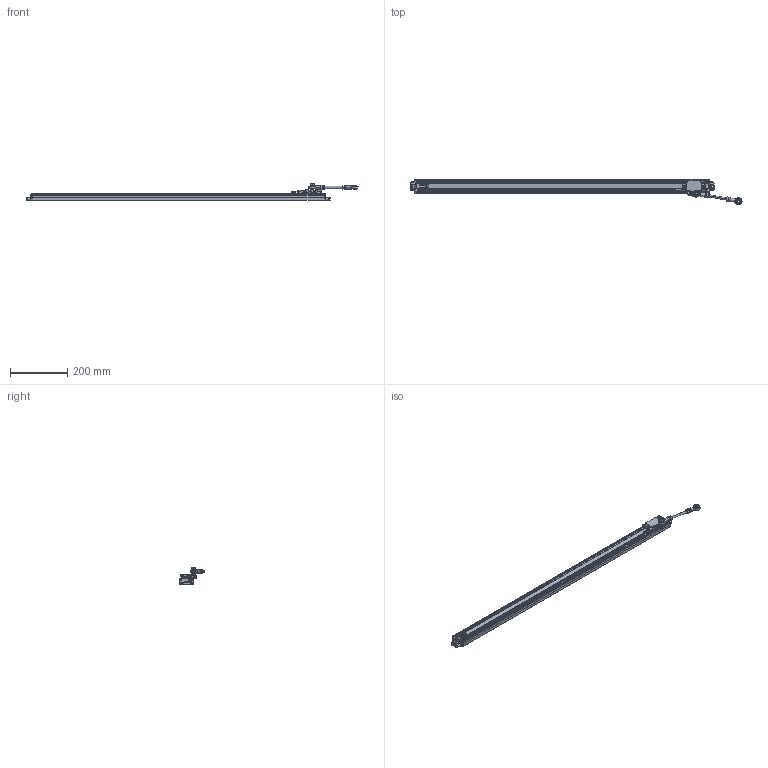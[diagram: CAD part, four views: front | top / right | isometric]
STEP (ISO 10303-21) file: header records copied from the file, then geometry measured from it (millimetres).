
FILE_DESCRIPTION(('Creo Elements/Direct Modeling STEP Export'),'2;1');
FILE_NAME('SERIE_PB-920.stp','2017-01-11T13:02:28',(''),(''),'Creo Elements/Direct Modeling STEP processor for AP214 (Solid Model)','Creo Elements/Direct Modeling 18.1H 24-Oct-2015 (C) Parametric Technology GmbH','');
FILE_SCHEMA(('AUTOMOTIVE_DESIGN { 1 0 10303 214 1 1 1 1 }'));
Length unit declared in the file: millimetre
Products named in the file (14): BLOCK; COUPLING_BAR; IO; READING_HEAD_BODY; SCALE_BLOCK_1; SCALE_BLOCK_2; SCALE_BODY_920
Assembly tree (7 placements, depth 2):
  BLOCK
    BLOCK
  COUPLING_BAR
    COUPLING_BAR
  IO
    IO
  READING_HEAD_BODY
    READING_HEAD_BODY
  SCALE_BLOCK_1
    SCALE_BLOCK_1
Bounding box: 1160.72 x 87.83 x 59.41 mm (x, y, z)
Volume: 1097395.8 mm3; surface area: 203641.6 mm2
Topology: 9 solids, 13 shells, 1960 faces, 5109 edges, 3177 vertices
Faces by surface type: plane 891, cylinder 671, bspline 198, torus 70, cone 70, sphere 51, extrusion 9
Entity records: 90029 total; most frequent: CARTESIAN_POINT 41051, ORIENTED_EDGE 10084, DIRECTION 8481, EDGE_CURVE 5034, VERTEX_POINT 3177, VECTOR 2925, LINE 2916, AXIS2_PLACEMENT_3D 2778
